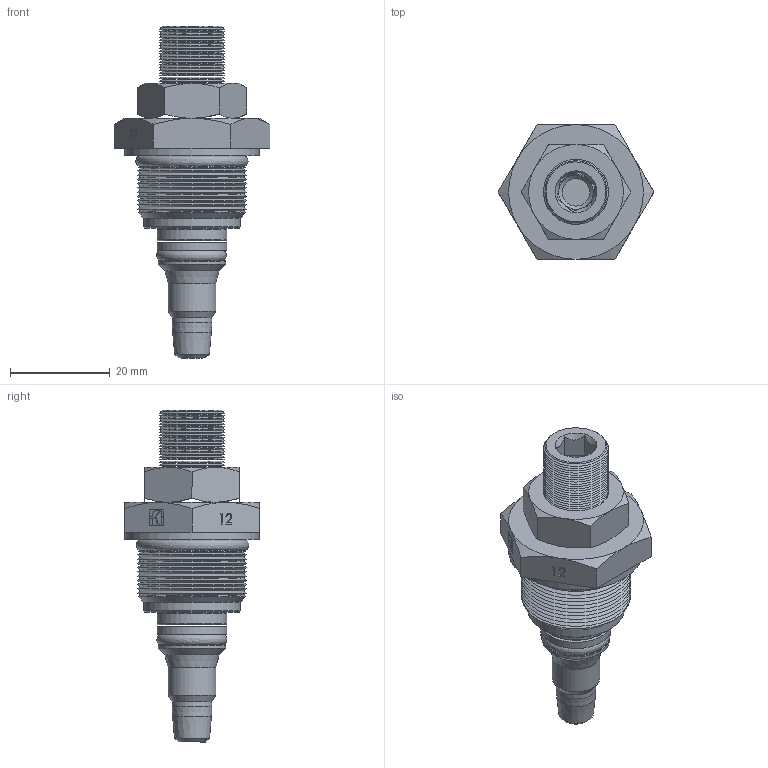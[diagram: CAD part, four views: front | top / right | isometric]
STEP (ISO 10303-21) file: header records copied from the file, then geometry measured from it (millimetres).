
FILE_DESCRIPTION (( 'STEP AP214' ), '1' );
FILE_NAME ('2243-2-12.STEP', '2023-03-08T15:36:05', ( '' ), ( '' ), 'SwSTEP 2.0', 'SolidWorks 2022', '' );
FILE_SCHEMA (( 'AUTOMOTIVE_DESIGN' ));
Length unit declared in the file: millimetre
Products named in the file (1): 2243-2-12
Bounding box: 31.18 x 27 x 66.5 mm (x, y, z)
Surface area: 6484.4 mm2 (no closed solid volume)
Topology: 0 solids, 13 shells, 233 faces, 639 edges, 406 vertices
Faces by surface type: plane 96, cone 84, bspline 40, cylinder 10, torus 3
Full cylindrical faces by diameter (mm): 7 x1, 8 x1, 9.5 x1, 13.5 x1, 14 x2, 19.4 x1, 19.5 x1, 27 x1
Entity records: 12198 total; most frequent: CARTESIAN_POINT 4451, DIRECTION 959, ORIENTED_EDGE 927, EDGE_CURVE 546, VERTEX_POINT 399, EDGE_LOOP 340, AXIS2_PLACEMENT_3D 335, LINE 289
